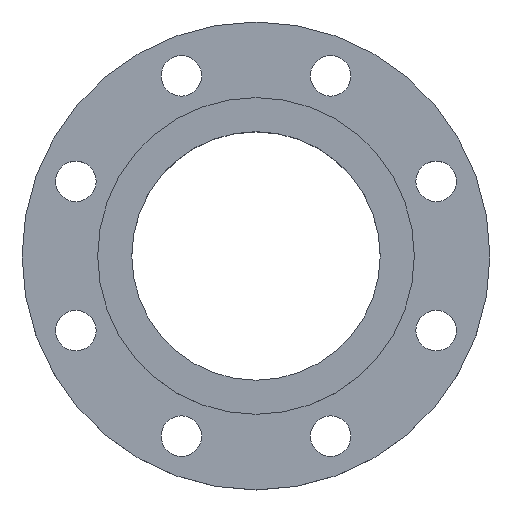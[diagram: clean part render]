
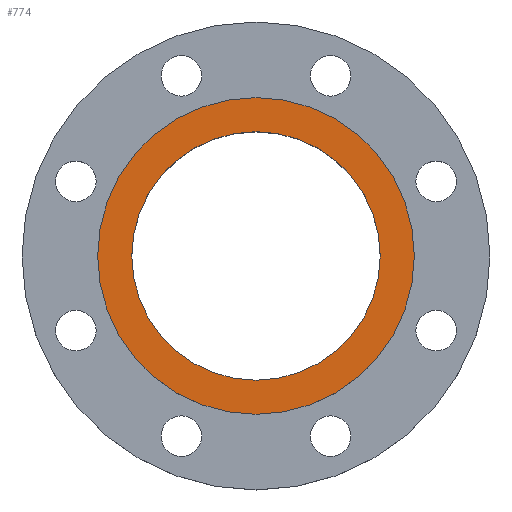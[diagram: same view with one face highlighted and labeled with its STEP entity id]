
A CAD part, top view. The second image highlights one B-rep face of the part: STEP entity #774.
In plain terms, the highlighted planar face has unit normal (0, 0, 1).
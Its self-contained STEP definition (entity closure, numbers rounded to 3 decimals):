
#7 = AXIS2_PLACEMENT_3D ( 'NONE', #1037, #320, #684 ) ;
#44 = DIRECTION ( 'NONE',  ( 0., 0., -1. ) ) ;
#82 = CIRCLE ( 'NONE', #91, 79.65 ) ;
#84 = DIRECTION ( 'NONE',  ( 0., 0., 1. ) ) ;
#89 = CIRCLE ( 'NONE', #781, 101.5 ) ;
#91 = AXIS2_PLACEMENT_3D ( 'NONE', #862, #44, #505 ) ;
#121 = EDGE_CURVE ( 'NONE', #749, #778, #82, .T. ) ;
#127 = CARTESIAN_POINT ( 'NONE',  ( 0., 0., 0. ) ) ;
#153 = CARTESIAN_POINT ( 'NONE',  ( 101.5, 0., 0. ) ) ;
#197 = FACE_OUTER_BOUND ( 'NONE', #713, .T. ) ;
#272 = ORIENTED_EDGE ( 'NONE', *, *, #331, .T. ) ;
#284 = ORIENTED_EDGE ( 'NONE', *, *, #121, .T. ) ;
#291 = ORIENTED_EDGE ( 'NONE', *, *, #614, .F. ) ;
#295 = CARTESIAN_POINT ( 'NONE',  ( -101.5, 0., 0. ) ) ;
#299 = ORIENTED_EDGE ( 'NONE', *, *, #979, .F. ) ;
#320 = DIRECTION ( 'NONE',  ( 0., 0., -1. ) ) ;
#331 = EDGE_CURVE ( 'NONE', #778, #749, #613, .T. ) ;
#440 = AXIS2_PLACEMENT_3D ( 'NONE', #127, #570, #852 ) ;
#505 = DIRECTION ( 'NONE',  ( -1., 0., 0. ) ) ;
#517 = CARTESIAN_POINT ( 'NONE',  ( 0., 0., 0. ) ) ;
#538 = DIRECTION ( 'NONE',  ( 1., 0., 0. ) ) ;
#565 = VERTEX_POINT ( 'NONE', #153 ) ;
#570 = DIRECTION ( 'NONE',  ( 0., 0., -1. ) ) ;
#613 = CIRCLE ( 'NONE', #7, 79.65 ) ;
#614 = EDGE_CURVE ( 'NONE', #734, #565, #89, .T. ) ;
#616 = PLANE ( 'NONE',  #652 ) ;
#652 = AXIS2_PLACEMENT_3D ( 'NONE', #892, #84, #538 ) ;
#684 = DIRECTION ( 'NONE',  ( -1., 0., 0. ) ) ;
#713 = EDGE_LOOP ( 'NONE', ( #291, #299 ) ) ;
#734 = VERTEX_POINT ( 'NONE', #295 ) ;
#749 = VERTEX_POINT ( 'NONE', #824 ) ;
#774 = ADVANCED_FACE ( 'NONE', ( #960, #197 ), #616, .T. ) ;
#778 = VERTEX_POINT ( 'NONE', #828 ) ;
#781 = AXIS2_PLACEMENT_3D ( 'NONE', #517, #811, #1085 ) ;
#794 = EDGE_LOOP ( 'NONE', ( #272, #284 ) ) ;
#811 = DIRECTION ( 'NONE',  ( 0., 0., -1. ) ) ;
#824 = CARTESIAN_POINT ( 'NONE',  ( 79.65, 0., 0. ) ) ;
#828 = CARTESIAN_POINT ( 'NONE',  ( -79.65, 0., 0. ) ) ;
#852 = DIRECTION ( 'NONE',  ( -1., 0., 0. ) ) ;
#862 = CARTESIAN_POINT ( 'NONE',  ( 0., 0., 0. ) ) ;
#869 = CIRCLE ( 'NONE', #440, 101.5 ) ;
#892 = CARTESIAN_POINT ( 'NONE',  ( 0., 0., 0. ) ) ;
#960 = FACE_BOUND ( 'NONE', #794, .T. ) ;
#979 = EDGE_CURVE ( 'NONE', #565, #734, #869, .T. ) ;
#1037 = CARTESIAN_POINT ( 'NONE',  ( 0., 0., 0. ) ) ;
#1085 = DIRECTION ( 'NONE',  ( -1., 0., 0. ) ) ;
